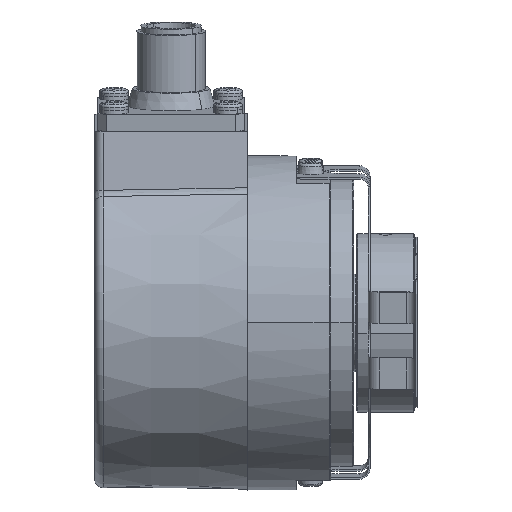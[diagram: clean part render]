
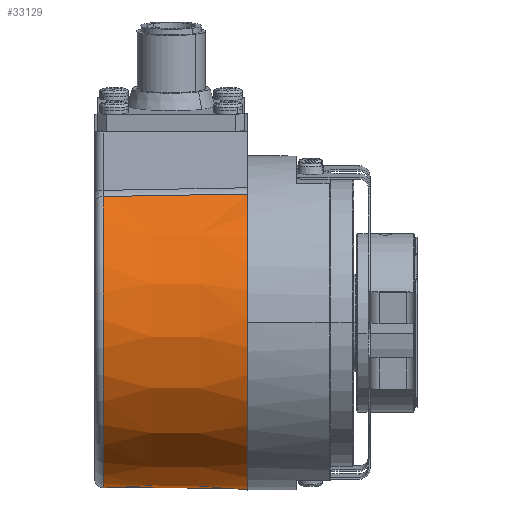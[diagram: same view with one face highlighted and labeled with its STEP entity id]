
A CAD part, top view. The second image highlights one B-rep face of the part: STEP entity #33129.
In plain terms, the highlighted conical face has half-angle 0.75 degrees and reference radius 29 mm.
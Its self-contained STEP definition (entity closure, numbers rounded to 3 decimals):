
#104 = EDGE_LOOP ( 'NONE', ( #17772, #17774, #17773, #17775 ) ) ;
#8964 = CONICAL_SURFACE ( 'NONE', #26278, 29., 0.013 ) ;
#10398 = CARTESIAN_POINT ( 'NONE',  ( -17.52, 0., 0. ) ) ;
#10399 = DIRECTION ( 'NONE',  ( 1., 0., 0. ) ) ;
#10400 = DIRECTION ( 'NONE',  ( 0., 0.993, 0.122 ) ) ;
#17772 = ORIENTED_EDGE ( 'NONE', *, *, #36771, .T. ) ;
#17773 = ORIENTED_EDGE ( 'NONE', *, *, #36748, .T. ) ;
#17774 = ORIENTED_EDGE ( 'NONE', *, *, #36749, .T. ) ;
#17775 = ORIENTED_EDGE ( 'NONE', *, *, #36747, .T. ) ;
#23116 = AXIS2_PLACEMENT_3D ( 'NONE', #27781, #27782, #27783 ) ;
#23128 = VECTOR ( 'NONE', #27787, 1000. ) ;
#23136 = AXIS2_PLACEMENT_3D ( 'NONE', #10398, #10399, #10400 ) ;
#26256 = FACE_OUTER_BOUND ( 'NONE', #104, .T. ) ;
#26278 = AXIS2_PLACEMENT_3D ( 'NONE', #31562, #31563, #31564 ) ;
#26668 = CARTESIAN_POINT ( 'NONE',  ( -17.52, 21.923, 18.479 ) ) ;
#26767 = CARTESIAN_POINT ( 'NONE',  ( 7.5, -28.784, -3.534 ) ) ;
#27151 = CARTESIAN_POINT ( 'NONE',  ( 7.5, 22.36, 18.467 ) ) ;
#27243 = CARTESIAN_POINT ( 'NONE',  ( -17.52, -28.459, -3.494 ) ) ;
#27768 = CARTESIAN_POINT ( 'NONE',  ( 7.5, 22.36, 18.467 ) ) ;
#27772 = CARTESIAN_POINT ( 'NONE',  ( 6.5, 22.343, 18.468 ) ) ;
#27773 = CARTESIAN_POINT ( 'NONE',  ( 5.5, 22.325, 18.468 ) ) ;
#27774 = CARTESIAN_POINT ( 'NONE',  ( 4.5, 22.308, 18.469 ) ) ;
#27775 = CARTESIAN_POINT ( 'NONE',  ( 0.501, 22.238, 18.47 ) ) ;
#27776 = CARTESIAN_POINT ( 'NONE',  ( -3.498, 22.169, 18.472 ) ) ;
#27777 = CARTESIAN_POINT ( 'NONE',  ( -7.498, 22.099, 18.474 ) ) ;
#27778 = CARTESIAN_POINT ( 'NONE',  ( -10.838, 22.04, 18.476 ) ) ;
#27779 = CARTESIAN_POINT ( 'NONE',  ( -14.179, 21.982, 18.477 ) ) ;
#27780 = CARTESIAN_POINT ( 'NONE',  ( -17.52, 21.923, 18.479 ) ) ;
#27781 = CARTESIAN_POINT ( 'NONE',  ( 7.5, 0., 0. ) ) ;
#27782 = DIRECTION ( 'NONE',  ( -1., 0., 0. ) ) ;
#27783 = DIRECTION ( 'NONE',  ( 0., 0.993, 0.122 ) ) ;
#27785 = LINE ( 'NONE', #27786, #23128 ) ;
#27786 = CARTESIAN_POINT ( 'NONE',  ( 7.5, -28.784, -3.534 ) ) ;
#27787 = DIRECTION ( 'NONE',  ( 1., -0.013, -0.002 ) ) ;
#31562 = CARTESIAN_POINT ( 'NONE',  ( 7.5, 0., 0. ) ) ;
#31563 = DIRECTION ( 'NONE',  ( 1., 0., 0. ) ) ;
#31564 = DIRECTION ( 'NONE',  ( 0., -0.993, -0.122 ) ) ;
#33129 = ADVANCED_FACE ( 'NONE', ( #26256 ), #8964, .T. ) ;
#35670 = VERTEX_POINT ( 'NONE', #26668 ) ;
#35769 = VERTEX_POINT ( 'NONE', #26767 ) ;
#36153 = VERTEX_POINT ( 'NONE', #27151 ) ;
#36245 = VERTEX_POINT ( 'NONE', #27243 ) ;
#36747 = EDGE_CURVE ( 'NONE', #36153, #35670, #36975, .T. ) ;
#36748 = EDGE_CURVE ( 'NONE', #35769, #36153, #38163, .T. ) ;
#36749 = EDGE_CURVE ( 'NONE', #36245, #35769, #27785, .T. ) ;
#36771 = EDGE_CURVE ( 'NONE', #35670, #36245, #38144, .T. ) ;
#36975 = B_SPLINE_CURVE_WITH_KNOTS ( 'NONE', 3,
 ( #27768, #27772, #27773, #27774, #27775, #27776, #27777, #27778, #27779, #27780 ),
 .UNSPECIFIED., .F., .F.,
 ( 4, 3, 3, 4 ),
 ( 0., 0.003, 0.015, 0.025 ),
 .UNSPECIFIED. ) ;
#38144 = CIRCLE ( 'NONE', #23136, 28.672 ) ;
#38163 = CIRCLE ( 'NONE', #23116, 29. ) ;
